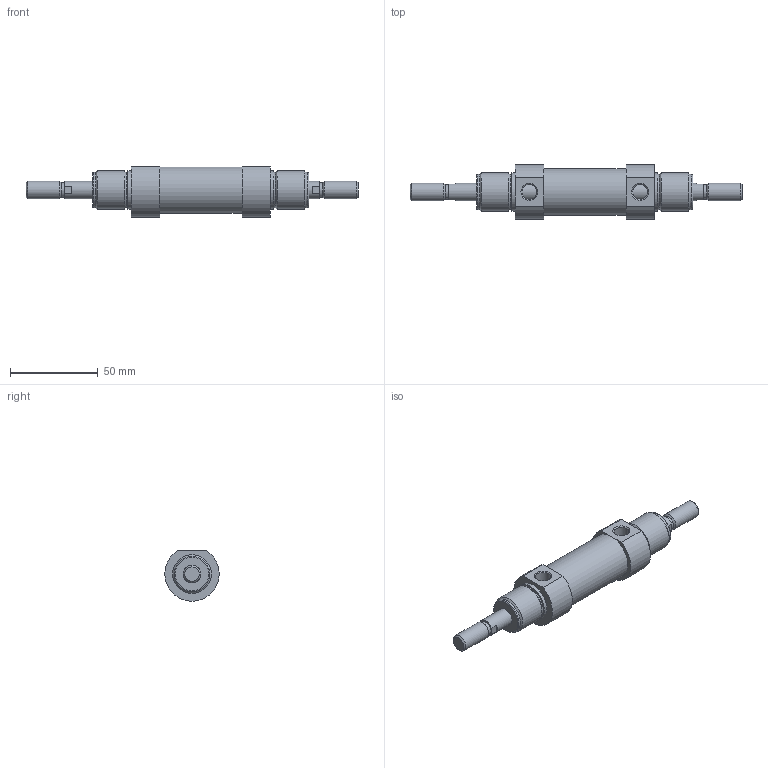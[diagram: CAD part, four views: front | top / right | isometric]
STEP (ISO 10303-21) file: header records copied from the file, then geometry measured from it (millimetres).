
FILE_DESCRIPTION( ( 'STEP AP203' ), '1' );
FILE_NAME( '//expscmdclustefs.cadenas.external/client_exchange/iodir/jobs/output/wkb68464846_no0/STEP/M101-025-0010--__0__2_03.stp', ' ', ( ' ' ), ( ' ' ), 'PSStep 15.0.47', 'PARTsolutions', ' ' );
FILE_SCHEMA( ( 'CONFIG_CONTROL_DESIGN' ) );
Length unit declared in the file: millimetre
Products named in the file (3): M101-025-0010-- [0]; HI_M101-025-0010---[0]-z; HI_M101-025-0010---[0]-k
Assembly tree (2 placements, depth 2):
  M101-025-0010-- [0]
    HI_M101-025-0010---[0]-z
    HI_M101-025-0010---[0]-k
Bounding box: 189 x 31 x 28.79 mm (x, y, z)
Volume: 65636.1 mm3; surface area: 25013.8 mm2
Topology: 2 solids, 2 shells, 63 faces, 123 edges, 74 vertices
Faces by surface type: plane 28, cylinder 23, cone 10, torus 2
Full cylindrical faces by diameter (mm): 8.16 x2, 8.566 x2, 10 x6, 20.16 x4, 22 x4, 25 x2, 26.6 x1
Entity records: 1700 total; most frequent: CARTESIAN_POINT 390, DIRECTION 276, ORIENTED_EDGE 176, AXIS2_PLACEMENT_3D 124, EDGE_LOOP 112, EDGE_CURVE 88, FACE_OUTER_BOUND 86, VERTEX_POINT 72
